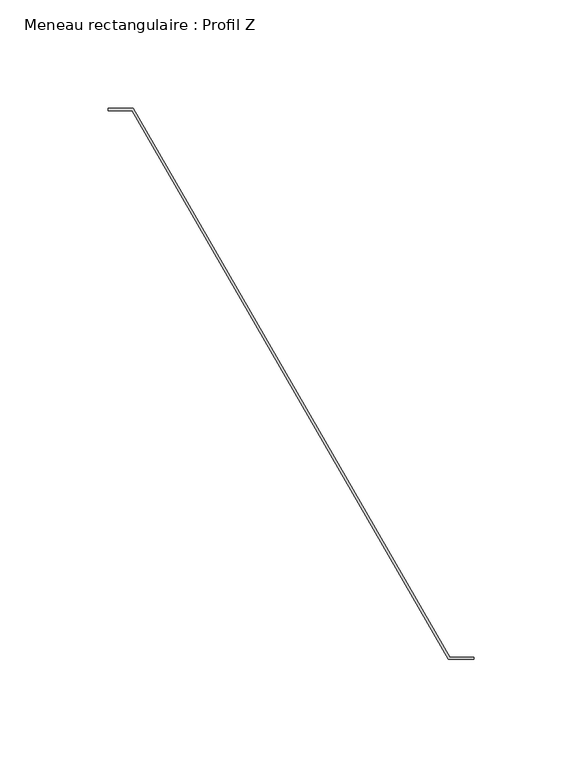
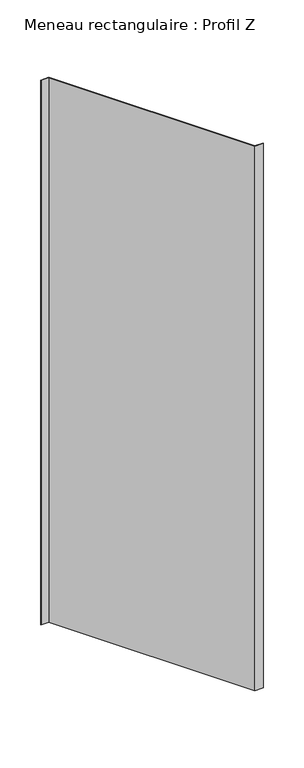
"""IFC4 building model written with IfcOpenShell, lengths in millimetres: member geometry, Meneau rectangulaire : Profil Z."""

from ifc_helpers import new_model, si_unit, frame, origin, place, context, project, spatial, polyline, outline, extrude, source, transform, mapped, element, save


def meneau_rectangulaire_profil_z_0c35a20b(model_context):
    return source(origin(), model_context, "Body", "SweptSolid", [
        extrude(outline(polyline([(72.7461339, -87.0), (-73.3234842, 166.0), (-84.2931393, 166.0), (-84.2931393, 167.0), (-72.7461339, 167.0), (73.3234842, -86.0), (84.2931393, -86.0), (84.2931393, -87.0), (72.7461339, -87.0)])), frame((0.0, 0.0, -816.3), z_axis=(0.0, 0.0, 1.0), x_axis=(1.0, 0.0, 0.0)), (0.0, 0.0, 1.0), 816.3),
    ])


if __name__ == "__main__":
    model = new_model("IFC4")
    model_context = context("Model", 3, world=origin())
    ifc_project = project(units=[si_unit("LENGTHUNIT", "METRE", prefix="MILLI")], contexts=[model_context])
    site = spatial("IfcSite", under=ifc_project)
    building = spatial("IfcBuilding", under=site)
    placement = place(None, origin())
    meneau_rectangulaire_profil_z_shape = meneau_rectangulaire_profil_z_0c35a20b(model_context)
    element("IfcMember", 1, ObjectType="Meneau rectangulaire : Profil Z", at=placement, inside=building, context=model_context, shape_type="MappedRepresentation", body=[
        mapped(meneau_rectangulaire_profil_z_shape, transform((0.0, 0.0, 0.0), x_axis=(1.0, 0.0, 0.0), y_axis=(0.0, 1.0, 0.0), z_axis=(0.0, 0.0, 1.0))),
    ])
    save(model, "model.ifc")
